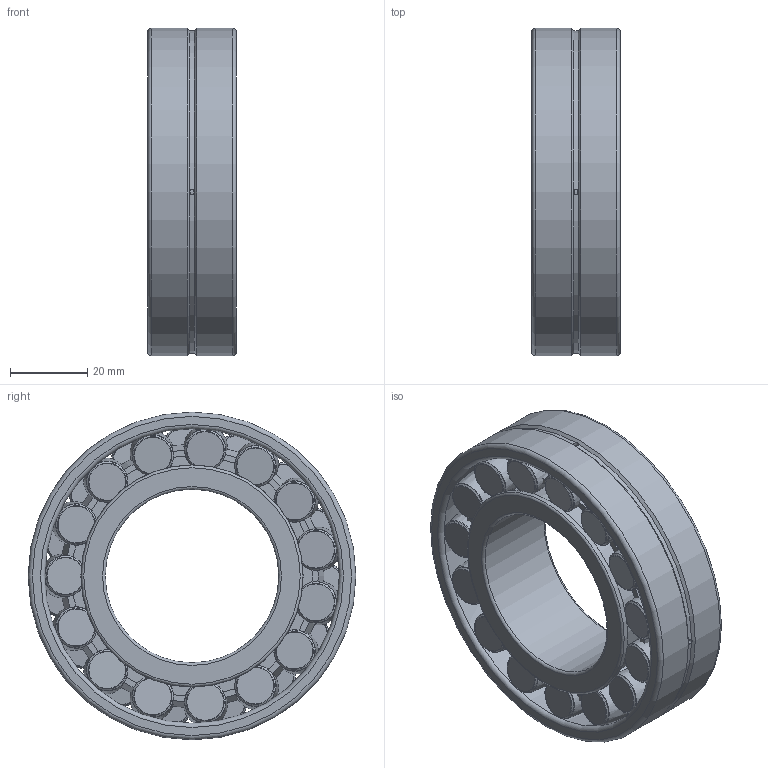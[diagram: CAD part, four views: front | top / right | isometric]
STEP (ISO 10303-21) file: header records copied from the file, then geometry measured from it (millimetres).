
FILE_DESCRIPTION(/* description */ (''),/* implementation_level */ '2;1');
FILE_NAME(/* name */ 'C:\Users\OUREHANEKD\Desktop\Ložiská\MODELY\DRSL\Klietka MB\222\222--\22209W33MB.stp',/* time_stamp */ '2016-09-19T09:12:05+02:00',/* author */ ('OUREHANEKD'),/* organization */ (''),/* preprocessor_version */ 'ST-DEVELOPER v15.6',/* originating_system */ 'Autodesk Inventor 2015',/* authorisation */ '');
FILE_SCHEMA (('AUTOMOTIVE_DESIGN { 1 0 10303 214 3 1 1 }'));
Length unit declared in the file: millimetre
Products named in the file (6): 22209W33MB-01; 22209W33MB-02; 22209W33MB-kl; 22209W33MB-roller2; 22209W33MB-roller1; 22209W33MB
Assembly tree (33 placements, depth 2):
  22209W33MB
    22209W33MB-01
    22209W33MB-02
    22209W33MB-kl
    22209W33MB-roller2  x15
    22209W33MB-roller1  x15
Bounding box: 23 x 85 x 85 mm (x, y, z)
Volume: 69721.6 mm3; surface area: 46548.6 mm2
Topology: 34 solids, 34 shells, 313 faces, 546 edges, 299 vertices
Faces by surface type: torus 131, plane 70, cone 66, bspline 31, cylinder 15
Full cylindrical faces by diameter (mm): 1.38 x3, 45 x1, 56.5 x2, 62.48 x2, 68.46 x2, 85 x2
Entity records: 2145 total; most frequent: CARTESIAN_POINT 711, DIRECTION 314, ORIENTED_EDGE 160, AXIS2_PLACEMENT_3D 157, EDGE_LOOP 114, EDGE_CURVE 80, VERTEX_POINT 70, FACE_OUTER_BOUND 61
